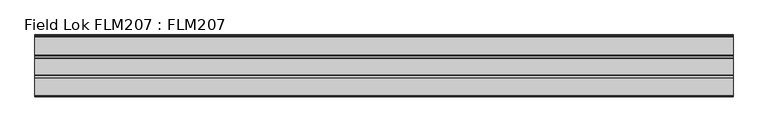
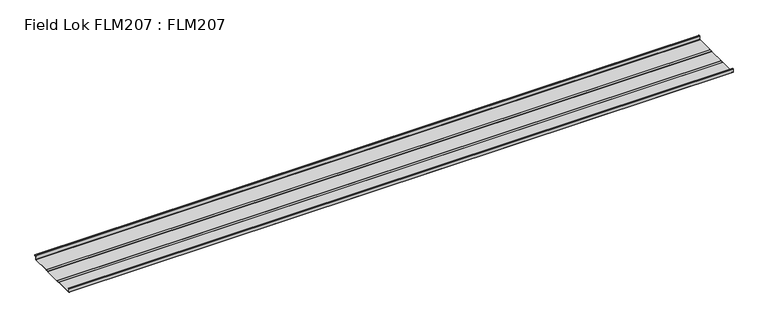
"""IFC4 building model written with IfcOpenShell, lengths in millimetres: proxy geometry, Field Lok FLM207 : FLM207."""

from ifc_helpers import new_model, si_unit, frame, origin, place, context, project, spatial, polyline, circle_curve, source, transform, mapped, element, save
from ifc_brep_helpers import plane_surface, cylinder_surface, revolved_surface, advanced_brep


def field_lok_flm207_flm207_3ad78b5f(model_context):
    return source(origin(), model_context, "Body", "AdvancedBrep", [
        advanced_brep(
        [(-3140.195459, 9.128125, 38.1), (-3140.195459, 9.128125, 37.2872), (-3140.195459, 2.8194, 37.2872), (-3140.195459, 0.8128, 35.2806), (-3140.195459, 0.8128, 5.588), (-3140.195459, 5.588, 0.8128), (-3140.195459, 164.8561868, 0.8128), (-3140.195459, 165.9444891, 1.5748375), (-3140.195459, 166.6875, 1.8091079), (-3140.195459, 189.0395, 1.8091079), (-3140.195459, 189.7825109, 1.5748375), (-3140.195459, 190.8708132, 0.8128), (-3140.195459, 336.3061868, 0.8128), (-3140.195459, 337.3944891, 1.5748375), (-3140.195459, 338.1375, 1.8091079), (-3140.195459, 360.4895, 1.8091079), (-3140.195459, 361.2325109, 1.5748375), (-3140.195459, 362.3208132, 0.8128), (-3140.195459, 523.2423209, 0.8128), (-3140.195459, 526.2376951, 3.7053992), (-3140.195459, 527.3714799, 36.1727456), (-3140.195459, 530.1891624, 38.89375), (-3140.195459, 537.6489549, 38.89375), (-3140.195459, 540.4683549, 36.07435), (-3140.195459, 540.4683549, 28.971875), (-3140.195459, 539.6555549, 28.971875), (-3140.195459, 539.6555549, 36.07435), (-3140.195459, 537.6489549, 38.08095), (-3140.195459, 530.1891624, 38.08095), (-3140.195459, 528.1837847, 36.1443793), (-3140.195459, 527.05, 3.6770329), (-3140.195459, 523.2423209, 0.0), (-3140.195459, 362.480985, 0.0), (-3140.195459, 361.7234052, 0.238864), (-3140.195459, 360.6416632, 0.9963079), (-3140.195459, 337.9853368, 0.9963079), (-3140.195459, 336.9035948, 0.238864), (-3140.195459, 336.146015, 0.0), (-3140.195459, 191.030985, 0.0), (-3140.195459, 190.2734052, 0.238864), (-3140.195459, 189.1916632, 0.9963079), (-3140.195459, 166.5353368, 0.9963079), (-3140.195459, 165.4535948, 0.238864), (-3140.195459, 164.696015, 0.0), (-3140.195459, 5.588, 0.0), (-3140.195459, 0.0, 5.588), (-3140.195459, 0.0, 35.2806), (-3140.195459, 2.8194, 38.1), (2955.804541, 9.128125, 38.1), (2955.804541, 2.8194, 38.1), (2955.804541, 0.0, 35.2806), (2955.804541, 0.0, 5.588), (2955.804541, 5.588, 0.0), (2955.804541, 164.696015, 0.0), (2955.804541, 165.4535948, 0.238864), (2955.804541, 166.5353368, 0.9963079), (2955.804541, 189.1916632, 0.9963079), (2955.804541, 190.2734052, 0.238864), (2955.804541, 191.030985, 0.0), (2955.804541, 336.019015, 0.0), (2955.804541, 336.9035948, 0.238864), (2955.804541, 337.9853368, 0.9963079), (2955.804541, 360.6416632, 0.9963079), (2955.804541, 361.7234052, 0.238864), (2955.804541, 362.480985, 0.0), (2955.804541, 523.2423209, 0.0), (2955.804541, 527.05, 3.6770329), (2955.804541, 528.1837847, 36.1443793), (2955.804541, 530.1891624, 38.08095), (2955.804541, 537.6489549, 38.08095), (2955.804541, 539.6555549, 36.07435), (2955.804541, 539.6555549, 28.971875), (2955.804541, 540.4683549, 28.971875), (2955.804541, 540.4683549, 36.07435), (2955.804541, 537.6489549, 38.89375), (2955.804541, 530.1891624, 38.89375), (2955.804541, 527.3714799, 36.1727456), (2955.804541, 526.2376951, 3.7053992), (2955.804541, 523.2423209, 0.8128), (2955.804541, 362.3208132, 0.8128), (2955.804541, 361.2325109, 1.5748375), (2955.804541, 360.4895, 1.8091079), (2955.804541, 338.1375, 1.8091079), (2955.804541, 337.3944891, 1.5748375), (2955.804541, 336.3061868, 0.8128), (2955.804541, 190.8708132, 0.8128), (2955.804541, 189.7825109, 1.5748375), (2955.804541, 189.0395, 1.8091079), (2955.804541, 166.6875, 1.8091079), (2955.804541, 165.9444891, 1.5748375), (2955.804541, 164.8561868, 0.8128), (2955.804541, 5.588, 0.8128), (2955.804541, 0.8128, 5.588), (2955.804541, 0.8128, 35.2806), (2955.804541, 2.8194, 37.2872), (2955.804541, 9.128125, 37.2872)],
        [
            (0, 1),
            (1, 2),
            (2, 3, circle_curve(frame((-3140.195459, 2.8194, 35.2806), z_axis=(1.0, 0.0, 0.0), x_axis=(0.0, 1.0, 0.0)), 2.0066)),
            (3, 4),
            (4, 5, circle_curve(frame((-3140.195459, 5.588, 5.588), z_axis=(1.0, 0.0, 0.0), x_axis=(0.0, 1.0, 0.0)), 4.7752)),
            (5, 6),
            (6, 7),
            (7, 8, circle_curve(frame((-3140.195459, 166.6875, 0.5137079), z_axis=(-1.0, 0.0, 0.0), x_axis=(0.0, 1.0, 0.0)), 1.2954)),
            (8, 9),
            (9, 10, circle_curve(frame((-3140.195459, 189.0395, 0.5137079), z_axis=(-1.0, 0.0, 0.0), x_axis=(0.0, -1.0, 0.0)), 1.2954)),
            (10, 11),
            (11, 12),
            (12, 13),
            (13, 14, circle_curve(frame((-3140.195459, 338.1375, 0.5137079), z_axis=(-1.0, 0.0, 0.0), x_axis=(0.0, 1.0, 0.0)), 1.2954)),
            (14, 15),
            (15, 16, circle_curve(frame((-3140.195459, 360.4895, 0.5137079), z_axis=(-1.0, 0.0, 0.0), x_axis=(0.0, 1.0, 0.0)), 1.2954)),
            (16, 17),
            (17, 18),
            (18, 19, circle_curve(frame((-3140.195459, 523.2423209, 3.81), z_axis=(1.0, 0.0, 0.0), x_axis=(0.0, 1.0, 0.0)), 2.9972)),
            (19, 20),
            (20, 21, circle_curve(frame((-3140.195459, 530.1891624, 36.07435), z_axis=(-1.0, 0.0, 0.0), x_axis=(0.0, 1.0, 0.0)), 2.8194)),
            (21, 22),
            (22, 23, circle_curve(frame((-3140.195459, 537.6489549, 36.07435), z_axis=(-1.0, 0.0, 0.0), x_axis=(0.0, 1.0, 0.0)), 2.8194)),
            (23, 24),
            (24, 25),
            (25, 26),
            (26, 27, circle_curve(frame((-3140.195459, 537.6489549, 36.07435), z_axis=(1.0, 0.0, 0.0), x_axis=(0.0, 1.0, 0.0)), 2.0066)),
            (27, 28),
            (28, 29, circle_curve(frame((-3140.195459, 530.1891624, 36.07435), z_axis=(1.0, 0.0, 0.0), x_axis=(0.0, 1.0, 0.0)), 2.0066)),
            (29, 30),
            (30, 31, circle_curve(frame((-3140.195459, 523.2423209, 3.81), z_axis=(-1.0, 0.0, 0.0), x_axis=(0.0, 1.0, 0.0)), 3.81)),
            (31, 32),
            (32, 33, circle_curve(frame((-3140.195459, 362.480985, 1.3208), z_axis=(-1.0, 0.0, 0.0), x_axis=(0.0, 1.0, 0.0)), 1.3208)),
            (33, 34),
            (34, 35),
            (35, 36),
            (36, 37, circle_curve(frame((-3140.195459, 336.146015, 1.3208), z_axis=(-1.0, 0.0, 0.0), x_axis=(0.0, 1.0, 0.0)), 1.3208)),
            (37, 38),
            (38, 39, circle_curve(frame((-3140.195459, 191.030985, 1.3208), z_axis=(-1.0, 0.0, 0.0), x_axis=(0.0, -1.0, 0.0)), 1.3208)),
            (39, 40),
            (40, 41),
            (41, 42),
            (42, 43, circle_curve(frame((-3140.195459, 164.696015, 1.3208), z_axis=(-1.0, 0.0, 0.0), x_axis=(0.0, 1.0, 0.0)), 1.3208)),
            (43, 44),
            (44, 45, circle_curve(frame((-3140.195459, 5.588, 5.588), z_axis=(-1.0, 0.0, 0.0), x_axis=(0.0, 1.0, 0.0)), 5.588)),
            (45, 46),
            (46, 47, circle_curve(frame((-3140.195459, 2.8194, 35.2806), z_axis=(-1.0, 0.0, 0.0), x_axis=(0.0, 1.0, 0.0)), 2.8194)),
            (47, 0),
            (48, 49),
            (49, 50, circle_curve(frame((2955.804541, 2.8194, 35.2806), z_axis=(1.0, 0.0, 0.0), x_axis=(0.0, 1.0, 0.0)), 2.8194)),
            (50, 51),
            (51, 52, circle_curve(frame((2955.804541, 5.588, 5.588), z_axis=(1.0, 0.0, 0.0), x_axis=(0.0, 1.0, 0.0)), 5.588)),
            (52, 53),
            (53, 54, circle_curve(frame((2955.804541, 164.696015, 1.3208), z_axis=(1.0, 0.0, 0.0), x_axis=(0.0, 1.0, 0.0)), 1.3208)),
            (54, 55),
            (55, 56),
            (56, 57),
            (57, 58, circle_curve(frame((2955.804541, 191.030985, 1.3208), z_axis=(1.0, 0.0, 0.0), x_axis=(0.0, -1.0, 0.0)), 1.3208)),
            (58, 59),
            (59, 60, circle_curve(frame((2955.804541, 336.146015, 1.3208), z_axis=(1.0, 0.0, 0.0), x_axis=(0.0, 1.0, 0.0)), 1.3208)),
            (60, 61),
            (61, 62),
            (62, 63),
            (63, 64, circle_curve(frame((2955.804541, 362.480985, 1.3208), z_axis=(1.0, 0.0, 0.0), x_axis=(0.0, 1.0, 0.0)), 1.3208)),
            (64, 65),
            (65, 66, circle_curve(frame((2955.804541, 523.2423209, 3.81), z_axis=(1.0, 0.0, 0.0), x_axis=(0.0, 1.0, 0.0)), 3.81)),
            (66, 67),
            (67, 68, circle_curve(frame((2955.804541, 530.1891624, 36.07435), z_axis=(-1.0, 0.0, 0.0), x_axis=(0.0, 1.0, 0.0)), 2.0066)),
            (68, 69),
            (69, 70, circle_curve(frame((2955.804541, 537.6489549, 36.07435), z_axis=(-1.0, 0.0, 0.0), x_axis=(0.0, 1.0, 0.0)), 2.0066)),
            (70, 71),
            (71, 72),
            (72, 73),
            (73, 74, circle_curve(frame((2955.804541, 537.6489549, 36.07435), z_axis=(1.0, 0.0, 0.0), x_axis=(0.0, 1.0, 0.0)), 2.8194)),
            (74, 75),
            (75, 76, circle_curve(frame((2955.804541, 530.1891624, 36.07435), z_axis=(1.0, 0.0, 0.0), x_axis=(0.0, 1.0, 0.0)), 2.8194)),
            (76, 77),
            (77, 78, circle_curve(frame((2955.804541, 523.2423209, 3.81), z_axis=(-1.0, 0.0, 0.0), x_axis=(0.0, 1.0, 0.0)), 2.9972)),
            (78, 79),
            (79, 80),
            (80, 81, circle_curve(frame((2955.804541, 360.4895, 0.5137079), z_axis=(1.0, 0.0, 0.0), x_axis=(0.0, 1.0, 0.0)), 1.2954)),
            (81, 82),
            (82, 83, circle_curve(frame((2955.804541, 338.1375, 0.5137079), z_axis=(1.0, 0.0, 0.0), x_axis=(0.0, 1.0, 0.0)), 1.2954)),
            (83, 84),
            (84, 85),
            (85, 86),
            (86, 87, circle_curve(frame((2955.804541, 189.0395, 0.5137079), z_axis=(1.0, 0.0, 0.0), x_axis=(0.0, -1.0, 0.0)), 1.2954)),
            (87, 88),
            (88, 89, circle_curve(frame((2955.804541, 166.6875, 0.5137079), z_axis=(1.0, 0.0, 0.0), x_axis=(0.0, 1.0, 0.0)), 1.2954)),
            (89, 90),
            (90, 91),
            (91, 92, circle_curve(frame((2955.804541, 5.588, 5.588), z_axis=(-1.0, 0.0, 0.0), x_axis=(0.0, 1.0, 0.0)), 4.7752)),
            (92, 93),
            (93, 94, circle_curve(frame((2955.804541, 2.8194, 35.2806), z_axis=(-1.0, 0.0, 0.0), x_axis=(0.0, 1.0, 0.0)), 2.0066)),
            (94, 95),
            (95, 48),
            (35, 61),
            (60, 36),
            (12, 84),
            (83, 13),
            (8, 88),
            (87, 9),
            (10, 86),
            (85, 11),
            (38, 58),
            (57, 39),
            (56, 40),
            (55, 41),
            (82, 14),
            (16, 80),
            (79, 17),
            (6, 90),
            (89, 7),
            (37, 59),
            (0, 48),
            (95, 1),
            (42, 54),
            (53, 43),
            (15, 81),
            (45, 51),
            (50, 46),
            (4, 92),
            (91, 5),
            (18, 78),
            (77, 19),
            (29, 67),
            (66, 30),
            (20, 76),
            (75, 21),
            (28, 68),
            (27, 69),
            (25, 71),
            (70, 26),
            (34, 62),
            (24, 72),
            (22, 74),
            (73, 23),
            (65, 31),
            (52, 44),
            (3, 93),
            (64, 32),
            (63, 33),
            (47, 49),
            (94, 2),
        ],
        [
            plane_surface(frame((-3140.195459, 51.0153311, -158.0493838), z_axis=(-1.0, 0.0, 0.0), x_axis=(0.0, 0.0, 1.0))),
            plane_surface(frame((2955.804541, 51.0153311, -158.0493838), z_axis=(1.0, 0.0, 0.0), x_axis=(0.0, 0.0, 1.0))),
            plane_surface(frame((-3140.195459, 337.9853368, 0.9963079), z_axis=(0.0, 0.5735764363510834, -0.8191520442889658), x_axis=(1.0, 0.0, 0.0))),
            plane_surface(frame((-3140.195459, 336.3061868, 0.8128), z_axis=(0.0, -0.5735764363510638, 0.8191520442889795), x_axis=(1.0, 0.0, 0.0))),
            plane_surface(frame((-3140.195459, 166.6875, 1.8091079), z_axis=(0.0, 0.0, 1.0), x_axis=(1.0, 0.0, 0.0))),
            plane_surface(frame((-3140.195459, 189.7825109, 1.5748375), z_axis=(0.0, 0.5735764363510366, 0.8191520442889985), x_axis=(1.0, 0.0, 0.0))),
            cylinder_surface(frame((-3140.195459, 189.0395, 0.5137079), z_axis=(-1.0, 0.0, 0.0), x_axis=(0.0, -1.0, 0.0)), 1.2954),
            cylinder_surface(frame((-3140.195459, 191.030985, 1.3208), z_axis=(-1.0, 0.0, 0.0), x_axis=(0.0, -1.0, 0.0)), 1.3208),
            plane_surface(frame((-3140.195459, 190.2734052, 0.238864), z_axis=(0.0, -0.5735764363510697, -0.8191520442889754), x_axis=(1.0, 0.0, 0.0))),
            plane_surface(frame((-3140.195459, 189.1916632, 0.9963079), z_axis=(0.0, 0.0, -1.0), x_axis=(1.0, 0.0, 0.0))),
            cylinder_surface(frame((-3140.195459, 338.1375, 0.5137079), z_axis=(-1.0, 0.0, 0.0), x_axis=(0.0, 1.0, 0.0)), 1.2954),
            plane_surface(frame((-3140.195459, 361.2325109, 1.5748375), z_axis=(0.0, 0.573576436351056, 0.8191520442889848), x_axis=(1.0, 0.0, 0.0))),
            plane_surface(frame((-3140.195459, 164.8561868, 0.8128), z_axis=(0.0, -0.573576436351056, 0.8191520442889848), x_axis=(1.0, 0.0, 0.0))),
            cylinder_surface(frame((-3140.195459, 166.6875, 0.5137079), z_axis=(-1.0, 0.0, 0.0), x_axis=(0.0, 1.0, 0.0)), 1.2954),
            plane_surface(frame((-3140.195459, 336.019015, 0.0), z_axis=(0.0, 0.0, -1.0), x_axis=(1.0, 0.0, 0.0))),
            plane_surface(frame((-3140.195459, 9.128125, 38.1), z_axis=(0.0, 1.0, 0.0), x_axis=(1.0, 0.0, 0.0))),
            plane_surface(frame((-3140.195459, 190.8708132, 0.8128), z_axis=(0.0, 0.0, 1.0), x_axis=(1.0, 0.0, 0.0))),
            cylinder_surface(frame((-3140.195459, 164.696015, 1.3208), z_axis=(-1.0, 0.0, 0.0), x_axis=(0.0, 1.0, 0.0)), 1.3208),
            plane_surface(frame((-3140.195459, 166.5353368, 0.9963079), z_axis=(0.0, 0.5735764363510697, -0.8191520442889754), x_axis=(1.0, 0.0, 0.0))),
            cylinder_surface(frame((-3140.195459, 360.4895, 0.5137079), z_axis=(-1.0, 0.0, 0.0), x_axis=(0.0, 1.0, 0.0)), 1.2954),
            plane_surface(frame((-3140.195459, 0.0, 5.588), z_axis=(0.0, -1.0, 0.0), x_axis=(1.0, 0.0, 0.0))),
            revolved_surface(polyline([(2955.804541, 10.363199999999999, 5.588), (-3140.195459, 10.363199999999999, 5.588)]), (-3140.195459, 5.588, 5.588), (1.0, 0.0, 0.0)),
            plane_surface(frame((-3140.195459, 5.588, 0.8128), z_axis=(0.0, 0.0, 1.0), x_axis=(1.0, 0.0, 0.0))),
            revolved_surface(polyline([(2955.804541, 526.2395209, 3.81), (-3140.195459, 526.2395209, 3.81)]), (-3140.195459, 523.2423209, 3.81), (1.0, 0.0, 0.0)),
            plane_surface(frame((-3140.195459, 528.1837847, 36.1443793), z_axis=(0.0, 0.9993908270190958, -0.03489949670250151), x_axis=(1.0, 0.0, 0.0))),
            cylinder_surface(frame((-3140.195459, 530.1891624, 36.07435), z_axis=(-1.0, 0.0, 0.0), x_axis=(0.0, 1.0, 0.0)), 2.8194),
            revolved_surface(polyline([(2955.804541, 532.1957624, 36.07435), (-3140.195459, 532.1957624, 36.07435)]), (-3140.195459, 530.1891624, 36.07435), (1.0, 0.0, 0.0)),
            plane_surface(frame((-3140.195459, 537.6489549, 38.08095), z_axis=(0.0, 0.0, -1.0), x_axis=(1.0, 0.0, 0.0))),
            plane_surface(frame((-3140.195459, 539.6555549, 28.971875), z_axis=(0.0, -1.0, 0.0), x_axis=(1.0, 0.0, 0.0))),
            plane_surface(frame((-3140.195459, 338.1375, 1.8091079), z_axis=(0.0, 0.0, 1.0), x_axis=(1.0, 0.0, 0.0))),
            plane_surface(frame((-3140.195459, 360.6416632, 0.9963079), z_axis=(0.0, 0.0, -1.0), x_axis=(1.0, 0.0, 0.0))),
            plane_surface(frame((-3140.195459, 540.4683549, 28.971875), z_axis=(0.0, 0.0, -1.0), x_axis=(1.0, 0.0, 0.0))),
            cylinder_surface(frame((-3140.195459, 537.6489549, 36.07435), z_axis=(-1.0, 0.0, 0.0), x_axis=(0.0, 1.0, 0.0)), 2.8194),
            plane_surface(frame((-3140.195459, 530.1891624, 38.89375), z_axis=(0.0, 0.0, 1.0), x_axis=(1.0, 0.0, 0.0))),
            plane_surface(frame((-3140.195459, 526.2376951, 3.7053992), z_axis=(0.0, -0.9993908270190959, 0.03489949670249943), x_axis=(1.0, 0.0, 0.0))),
            cylinder_surface(frame((-3140.195459, 523.2423209, 3.81), z_axis=(-1.0, 0.0, 0.0), x_axis=(0.0, 1.0, 0.0)), 3.81),
            plane_surface(frame((-3140.195459, 164.696015, 0.0), z_axis=(0.0, 0.0, -1.0), x_axis=(1.0, 0.0, 0.0))),
            plane_surface(frame((-3140.195459, 0.8128, 35.2806), z_axis=(0.0, 1.0, 0.0), x_axis=(1.0, 0.0, 0.0))),
            cylinder_surface(frame((-3140.195459, 5.588, 5.588), z_axis=(-1.0, 0.0, 0.0), x_axis=(0.0, 1.0, 0.0)), 5.588),
            plane_surface(frame((-3140.195459, 540.4683549, 36.07435), z_axis=(0.0, 1.0, 0.0), x_axis=(1.0, 0.0, 0.0))),
            plane_surface(frame((-3140.195459, 362.3208132, 0.8128), z_axis=(0.0, 0.0, 1.0), x_axis=(1.0, 0.0, 0.0))),
            cylinder_surface(frame((-3140.195459, 336.146015, 1.3208), z_axis=(-1.0, 0.0, 0.0), x_axis=(0.0, 1.0, 0.0)), 1.3208),
            plane_surface(frame((-3140.195459, 523.2423209, 0.0), z_axis=(0.0, 0.0, -1.0), x_axis=(1.0, 0.0, 0.0))),
            revolved_surface(polyline([(2955.804541, 539.6555549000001, 36.07435), (-3140.195459, 539.6555549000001, 36.07435)]), (-3140.195459, 537.6489549, 36.07435), (1.0, 0.0, 0.0)),
            cylinder_surface(frame((-3140.195459, 362.480985, 1.3208), z_axis=(-1.0, 0.0, 0.0), x_axis=(0.0, 1.0, 0.0)), 1.3208),
            plane_surface(frame((-3140.195459, 361.7234052, 0.238864), z_axis=(0.0, -0.5735764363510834, -0.8191520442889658), x_axis=(1.0, 0.0, 0.0))),
            plane_surface(frame((-3140.195459, 2.8194, 38.1), z_axis=(0.0, 0.0, 1.0), x_axis=(1.0, 0.0, 0.0))),
            cylinder_surface(frame((-3140.195459, 2.8194, 35.2806), z_axis=(-1.0, 0.0, 0.0), x_axis=(0.0, 1.0, 0.0)), 2.8194),
            plane_surface(frame((-3140.195459, 9.128125, 37.2872), z_axis=(0.0, 0.0, -1.0), x_axis=(1.0, 0.0, 0.0))),
            revolved_surface(polyline([(2955.804541, 4.8260000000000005, 35.2806), (-3140.195459, 4.8260000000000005, 35.2806)]), (-3140.195459, 2.8194, 35.2806), (1.0, 0.0, 0.0)),
        ],
        [
            (0, [[1, 2, 3, 4, 5, 6, 7, 8, 9, 10, 11, 12, 13, 14, 15, 16, 17, 18, 19, 20, 21, 22, 23, 24, 25, 26, 27, 28, 29, 30, 31, 32, 33, 34, 35, 36, 37, 38, 39, 40, 41, 42, 43, 44, 45, 46, 47, 48]]),
            (1, [[49, 50, 51, 52, 53, 54, 55, 56, 57, 58, 59, 60, 61, 62, 63, 64, 65, 66, 67, 68, 69, 70, 71, 72, 73, 74, 75, 76, 77, 78, 79, 80, 81, 82, 83, 84, 85, 86, 87, 88, 89, 90, 91, 92, 93, 94, 95, 96]]),
            (2, [[-36, 97, -61, 98]]),
            (3, [[-13, 99, -84, 100]]),
            (4, [[-9, 101, -88, 102]]),
            (5, [[-11, 103, -86, 104]]),
            (6, [[-10, -102, -87, -103]]),
            (7, [[-39, 105, -58, 106]]),
            (8, [[-40, -106, -57, 107]]),
            (9, [[-41, -107, -56, 108]]),
            (10, [[-14, -100, -83, 109]]),
            (11, [[-17, 110, -80, 111]]),
            (12, [[-7, 112, -90, 113]]),
            (13, [[-8, -113, -89, -101]]),
            (14, [[-38, 114, -59, -105]]),
            (15, [[-1, 115, -96, 116]]),
            (16, [[-12, -104, -85, -99]]),
            (17, [[-43, 117, -54, 118]]),
            (18, [[-42, -108, -55, -117]]),
            (19, [[-16, 119, -81, -110]]),
            (20, [[-46, 120, -51, 121]]),
            (21, [[-5, 122, -92, 123]]),
            (22, [[-6, -123, -91, -112]]),
            (23, [[-19, 124, -78, 125]]),
            (24, [[-30, 126, -67, 127]]),
            (25, [[-21, 128, -76, 129]]),
            (26, [[-29, 130, -68, -126]]),
            (27, [[-28, 131, -69, -130]]),
            (28, [[-26, 132, -71, 133]]),
            (29, [[-15, -109, -82, -119]]),
            (30, [[-35, 134, -62, -97]]),
            (31, [[-25, 135, -72, -132]]),
            (32, [[-23, 136, -74, 137]]),
            (33, [[-22, -129, -75, -136]]),
            (34, [[-20, -125, -77, -128]]),
            (35, [[-31, -127, -66, 138]]),
            (36, [[-44, -118, -53, 139]]),
            (37, [[-4, 140, -93, -122]]),
            (38, [[-45, -139, -52, -120]]),
            (39, [[-24, -137, -73, -135]]),
            (40, [[-18, -111, -79, -124]]),
            (41, [[-37, -98, -60, -114]]),
            (42, [[-32, -138, -65, 141]]),
            (43, [[-27, -133, -70, -131]]),
            (44, [[-33, -141, -64, 142]]),
            (45, [[-34, -142, -63, -134]]),
            (46, [[-48, 143, -49, -115]]),
            (47, [[-47, -121, -50, -143]]),
            (48, [[-2, -116, -95, 144]]),
            (49, [[-3, -144, -94, -140]]),
        ],
    ),
    ])


if __name__ == "__main__":
    model = new_model("IFC4")
    model_context = context("Model", 3, world=origin())
    ifc_project = project(units=[si_unit("LENGTHUNIT", "METRE", prefix="MILLI")], contexts=[model_context])
    site = spatial("IfcSite", under=ifc_project)
    building = spatial("IfcBuilding", under=site)
    placement = place(None, origin())
    field_lok_flm207_flm207_shape = field_lok_flm207_flm207_3ad78b5f(model_context)
    element("IfcBuildingElementProxy", 1, Name="Field Lok FLM207 : FLM207", ObjectType="Field Lok FLM207 : FLM207", at=placement, inside=building, context=model_context, shape_type="MappedRepresentation", body=[
        mapped(field_lok_flm207_flm207_shape, transform((0.0, 0.0, 0.0), x_axis=(1.0, 0.0, 0.0), y_axis=(0.0, 1.0, 0.0), z_axis=(0.0, 0.0, 1.0))),
    ])
    save(model, "model.ifc")
